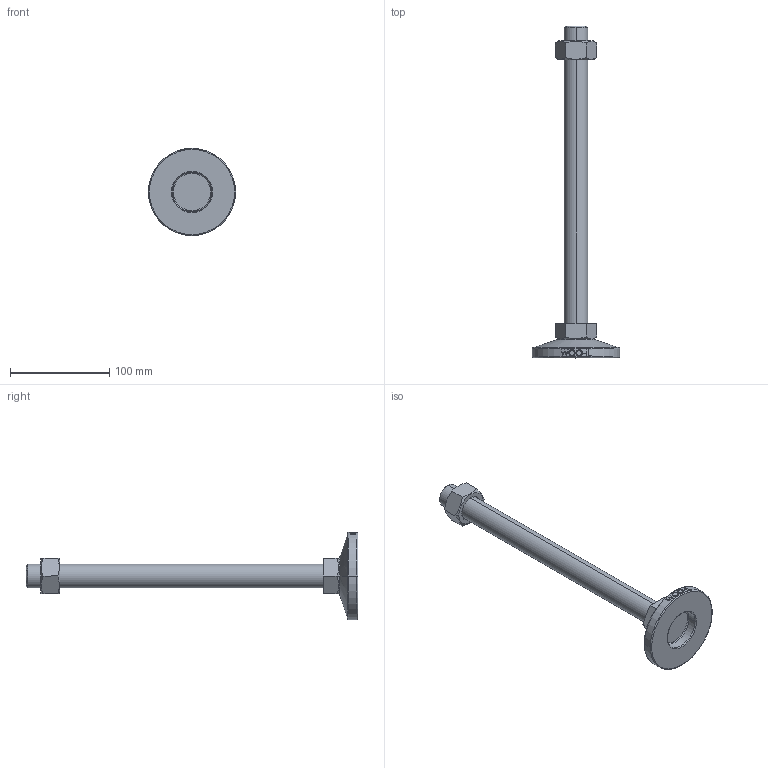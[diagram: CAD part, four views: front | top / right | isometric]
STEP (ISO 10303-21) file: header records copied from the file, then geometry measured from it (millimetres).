
FILE_DESCRIPTION (( 'STEP AP214' ), '1' );
FILE_NAME ('MFT88-M24-300.step', '2021-03-29T04:45:37', ( '' ), ( '' ), 'SwSTEP 2.0', 'SolidWorks 2019', '' );
FILE_SCHEMA (( 'AUTOMOTIVE_DESIGN' ));
Length unit declared in the file: millimetre
Products named in the file (2): MFT88-M24-300
Bounding box: 88 x 335 x 88 mm (x, y, z)
Volume: 241715.1 mm3; surface area: 47946.2 mm2
Topology: 3 solids, 3 shells, 106 faces, 243 edges, 154 vertices
Faces by surface type: plane 48, cylinder 18, bspline 16, cone 14, torus 10
Entity records: 4538 total; most frequent: CARTESIAN_POINT 2195, ORIENTED_EDGE 486, DIRECTION 439, EDGE_CURVE 243, AXIS2_PLACEMENT_3D 170, VERTEX_POINT 154, EDGE_LOOP 119, ADVANCED_FACE 106
